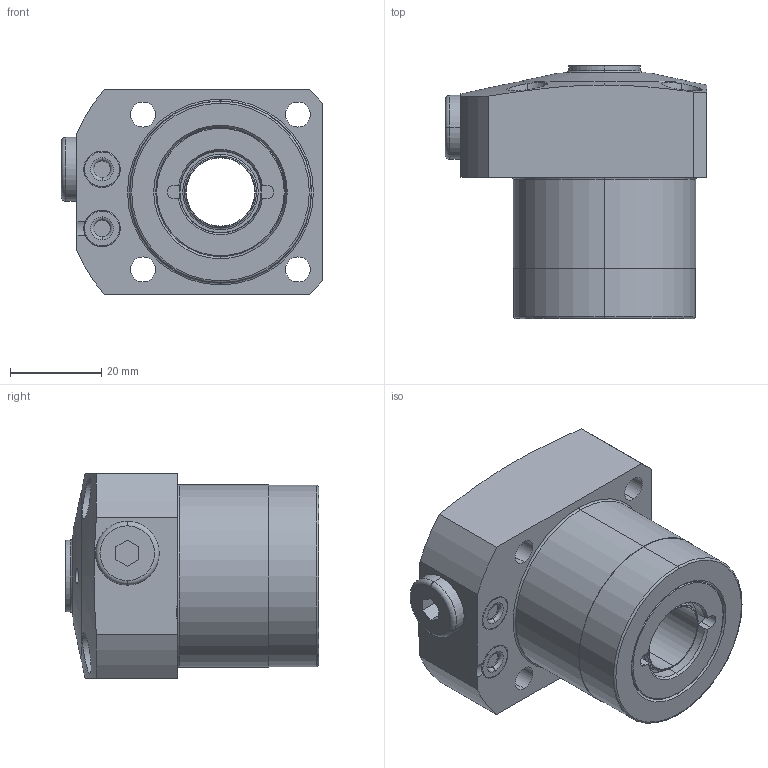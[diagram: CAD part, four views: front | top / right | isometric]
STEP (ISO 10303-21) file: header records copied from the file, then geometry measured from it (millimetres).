
FILE_DESCRIPTION(/* description */ (''),/* implementation_level */ '2;1');
FILE_NAME(/* name */ 'KFSS40-C.stp',/* time_stamp */ '2026-02-06T10:10:00+08:00',/* author */ (''),/* organization */ (''),/* preprocessor_version */ 'ST-DEVELOPER v16.7',/* originating_system */ 'SIEMENS PLM Software NX 12.0',/* authorisation */ '');
FILE_SCHEMA (('AUTOMOTIVE_DESIGN { 1 0 10303 214 3 1 1 1 }'));
Length unit declared in the file: millimetre
Products named in the file (4): KFSS40-C-01; KFSS40-C-02; KFSS40-C-03-P5; LC0403-C-D_step
Assembly tree (4 placements, depth 2):
  LC0403-C-D_step
    KFSS40-C-03-P5  x2
    KFSS40-C-02
    KFSS40-C-01
Bounding box: 57.5 x 55.6 x 45 mm (x, y, z)
Volume: 75752 mm3; surface area: 17799.3 mm2
Topology: 4 solids, 4 shells, 183 faces, 406 edges, 247 vertices
Faces by surface type: cylinder 62, plane 47, torus 40, cone 34
Entity records: 5139 total; most frequent: CARTESIAN_POINT 1039, DIRECTION 911, ORIENTED_EDGE 756, AXIS2_PLACEMENT_3D 385, EDGE_CURVE 378, VERTEX_POINT 233, CIRCLE 209, EDGE_LOOP 203
